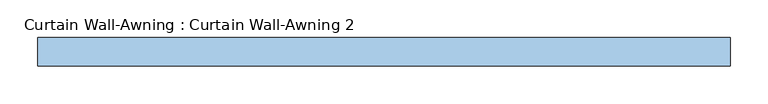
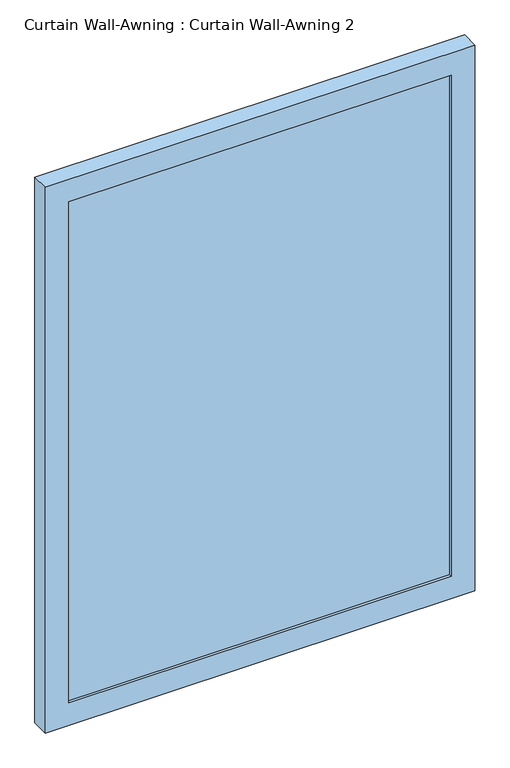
"""IFC4 building model written with IfcOpenShell, lengths in millimetres: window geometry, Curtain Wall-Awning : Curtain Wall-Awning 2."""

from ifc_helpers import new_model, si_unit, frame, origin, place, context, project, spatial, polyline, outline, extrude, source, transform, mapped, element, save


def curtain_wall_awning_curtain_wall_awning_2_a05563cf(model_context):
    return source(origin(), model_context, "Body", "SweptSolid", [
        extrude(outline(polyline([(409.575, 19.05), (409.575, 6.35), (-409.575, 6.35), (-409.575, 19.05), (409.575, 19.05)])), frame((0.0, 0.0, 50.8), z_axis=(0.0, 0.0, 1.0), x_axis=(1.0, 0.0, 0.0)), (0.0, 0.0, 1.0), 1134.635445),
        extrude(outline(polyline([(1236.235445, -460.375), (0.0, -460.375), (0.0, 460.375), (1236.235445, 460.375), (1236.235445, -460.375)]), holes=[polyline([(1185.435445, -409.575), (1185.435445, 409.575), (50.8, 409.575), (50.8, -409.575), (1185.435445, -409.575)])]), frame((0.0, 0.0, 0.0), z_axis=(0.0, 1.0, 0.0), x_axis=(0.0, 0.0, 1.0)), (0.0, 0.0, 1.0), 38.1),
    ])


if __name__ == "__main__":
    model = new_model("IFC4")
    model_context = context("Model", 3, world=origin())
    ifc_project = project(units=[si_unit("LENGTHUNIT", "METRE", prefix="MILLI")], contexts=[model_context])
    site = spatial("IfcSite", under=ifc_project)
    building = spatial("IfcBuilding", under=site)
    placement = place(None, origin())
    curtain_wall_awning_curtain_wall_awning_2_shape = curtain_wall_awning_curtain_wall_awning_2_a05563cf(model_context)
    element("IfcWindow", 1, ObjectType="Curtain Wall-Awning : Curtain Wall-Awning 2", at=placement, inside=building, context=model_context, shape_type="MappedRepresentation", body=[
        mapped(curtain_wall_awning_curtain_wall_awning_2_shape, transform((0.0, 0.0, 0.0), x_axis=(1.0, 0.0, 0.0), y_axis=(0.0, 1.0, 0.0), z_axis=(0.0, 0.0, 1.0))),
    ])
    save(model, "model.ifc")
